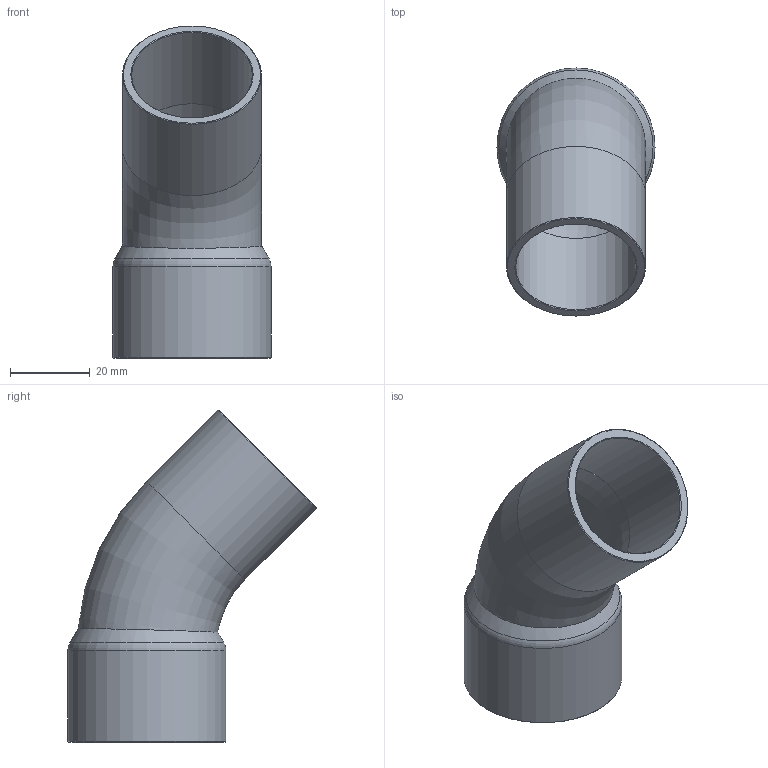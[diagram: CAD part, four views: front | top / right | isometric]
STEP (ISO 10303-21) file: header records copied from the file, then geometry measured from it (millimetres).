
FILE_DESCRIPTION((''),'2;1');
FILE_NAME('G:\SANHA-Ternat\Technik\Management\Bouwmaten + markeringen\z-maattekeningen 3D\29000s\29040138_3d.stp','2017-07-26T14:42:52',('vdvijverd'),(''),'Autodesk Inventor 2009','Autodesk Inventor 2009','');
FILE_SCHEMA(('AUTOMOTIVE_DESIGN { 1 0 10303 214 1 1 1 1 }'));
Length unit declared in the file: millimetre
Products named in the file (1): 29040138_3d
Bounding box: 39.7 x 62.36 x 83.37 mm (x, y, z)
Volume: 20338.8 mm3; surface area: 18148.1 mm2
Topology: 1 solids, 1 shells, 18 faces, 34 edges, 20 vertices
Faces by surface type: cone 6, plane 4, cylinder 4, torus 3, bspline 1
Full cylindrical faces by diameter (mm): 30.325 x1, 34.925 x1, 35.105 x1, 39.705 x1
Entity records: 500 total; most frequent: CARTESIAN_POINT 171, DIRECTION 68, ORIENTED_EDGE 36, EDGE_LOOP 36, AXIS2_PLACEMENT_3D 34, VERTEX_POINT 18, EDGE_CURVE 18, FACE_OUTER_BOUND 18
